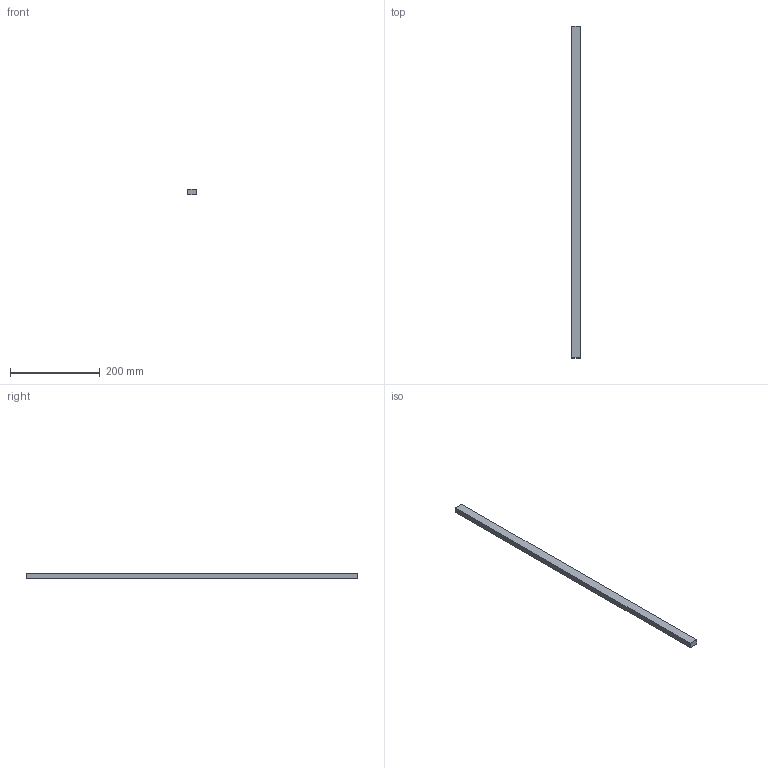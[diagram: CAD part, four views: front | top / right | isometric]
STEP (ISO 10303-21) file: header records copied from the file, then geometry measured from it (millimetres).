
FILE_DESCRIPTION(('Open CASCADE Model'),'2;1');
FILE_NAME('Open CASCADE Shape Model','2026-10-15T15:10:05',('Author'),( 'Open CASCADE'),'Open CASCADE STEP processor 8.0','Open CASCADE 8.0' ,'Unknown');
FILE_SCHEMA(('AUTOMOTIVE_DESIGN { 1 0 10303 214 1 1 1 1 }'));
Length unit declared in the file: millimetre
Products named in the file (1): MG07_UHMW_SUP_1_P05 108
Bounding box: 20 x 740 x 12 mm (x, y, z)
Volume: 177600 mm3; surface area: 47840 mm2
Topology: 1 solids, 1 shells, 6 faces, 12 edges, 8 vertices
Faces by surface type: plane 6
Entity records: 322 total; most frequent: CARTESIAN_POINT 51, DIRECTION 50, LINE 36, VECTOR 36, ORIENTED_EDGE 24, PCURVE 24, DEFINITIONAL_REPRESENTATION 24, EDGE_CURVE 12
